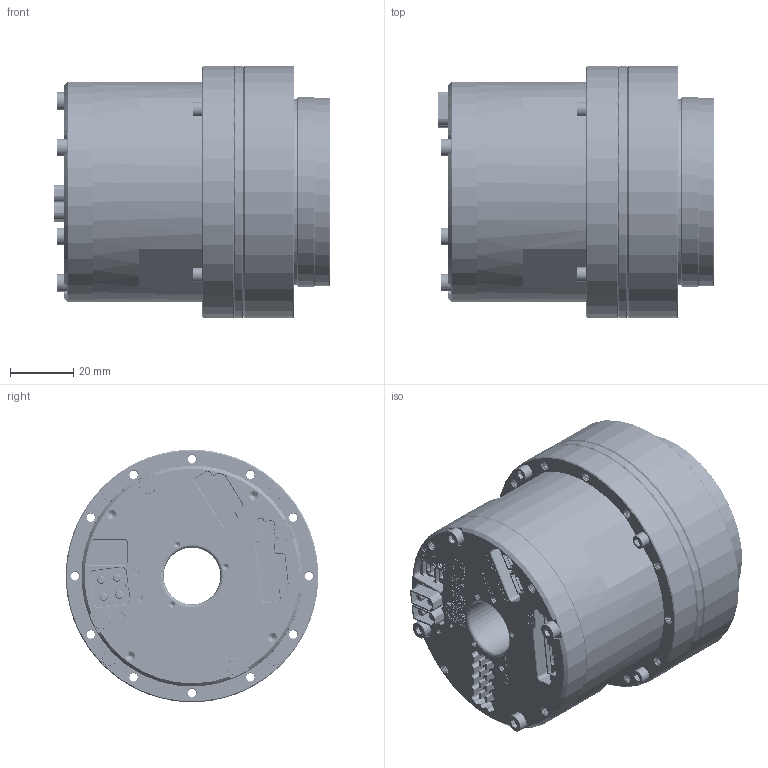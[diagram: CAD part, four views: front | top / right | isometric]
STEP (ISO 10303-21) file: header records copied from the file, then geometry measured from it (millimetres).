
FILE_DESCRIPTION (( 'STEP AP203' ), '1' );
FILE_NAME ('eRob80H｡ﾁ｡ﾁI-XX-18EX_V5_MC2D.DX.XX.step', '2024-05-21T10:24:35', ( 'Windows User' ), ( 'P R C' ), 'SwSTEP 2.0', 'SolidWorks 2021', '' );
FILE_SCHEMA (( 'CONFIG_CONTROL_DESIGN' ));
Length unit declared in the file: millimetre
Products named in the file (1): eRob80H××I-XX-18EX_V5_MC2D.DX.XX
Bounding box: 87.6 x 80 x 80 mm (x, y, z)
Volume: 315012.6 mm3; surface area: 47798.5 mm2
Topology: 1 solids, 1 shells, 5092 faces, 13911 edges, 9085 vertices
Faces by surface type: plane 2459, cylinder 1938, bspline 499, cone 144, torus 52
Entity records: 393372 total; most frequent: CARTESIAN_POINT 275389, ORIENTED_EDGE 27682, DIRECTION 20646, EDGE_CURVE 13841, VERTEX_POINT 9085, LINE 8438, VECTOR 8438, AXIS2_PLACEMENT_3D 6104
